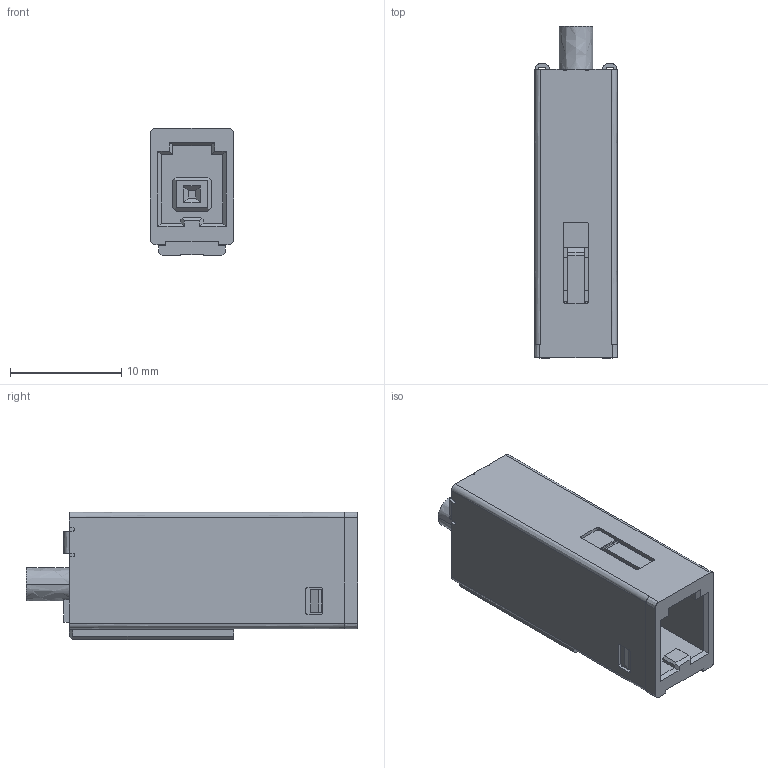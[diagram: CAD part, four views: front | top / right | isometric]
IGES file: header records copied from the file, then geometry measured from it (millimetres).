
Start section:  PTC IGES file: css1001-2202f_sw150119.igs
Global section: file name: css1001-2202f_sw150119.igs; native system: Creo Parametric by Parametric Technology Corporation; preprocessor: 2013230; author: tomoki-t; organization: Unknown; date: 20150119.103914; units: millimetre
Bounding box: 7.5 x 29.9 x 11.5 mm (x, y, z)
Volume: 1743.8 mm3; surface area: 2960.3 mm2
Topology: 1 solids, 3 shells, 379 faces, 1112 edges, 720 vertices
Faces by surface type: bspline 379
